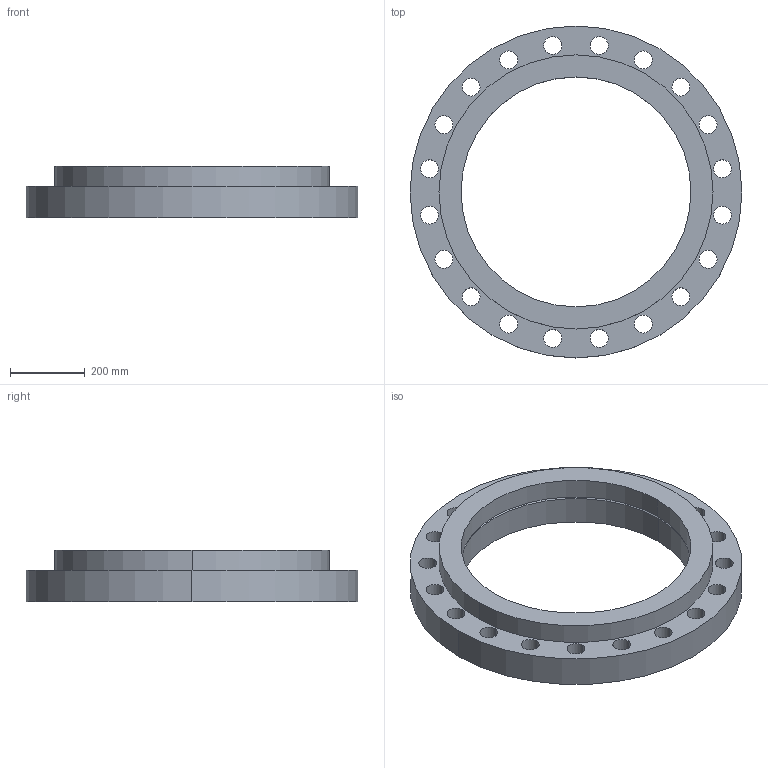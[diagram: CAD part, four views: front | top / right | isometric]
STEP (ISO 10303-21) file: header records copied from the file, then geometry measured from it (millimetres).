
FILE_DESCRIPTION (( 'STEP AP214' ), '1' );
FILE_NAME ('PN40 DN600 Type 02 in 32 - (Type A Face).STEP', '2018-12-28T23:36:54', ( '' ), ( '' ), 'SwSTEP 2.0', 'SolidWorks 2019', '' );
FILE_SCHEMA (( 'AUTOMOTIVE_DESIGN' ));
Length unit declared in the file: millimetre
Products named in the file (1): PN40 DN600 Type 02 in 32 - (Type A Face)
Bounding box: 890 x 890 x 138 mm (x, y, z)
Volume: 30422691.5 mm3; surface area: 1688244.8 mm2
Topology: 2 solids, 2 shells, 54 faces, 148 edges, 98 vertices
Faces by surface type: cylinder 48, plane 4, cone 2
Entity records: 1905 total; most frequent: DIRECTION 356, CARTESIAN_POINT 301, ORIENTED_EDGE 296, AXIS2_PLACEMENT_3D 153, EDGE_CURVE 148, CIRCLE 98, EDGE_LOOP 98, VERTEX_POINT 98
